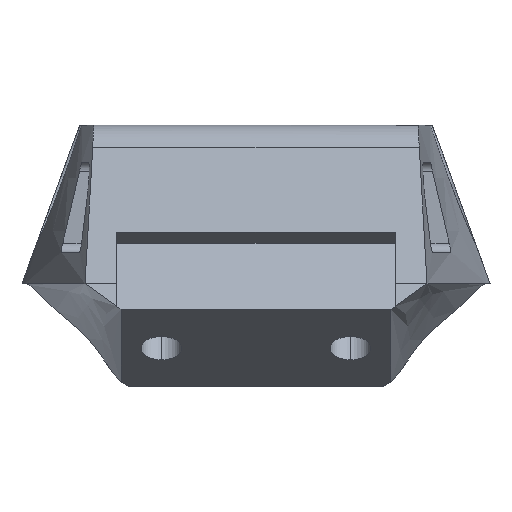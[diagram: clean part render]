
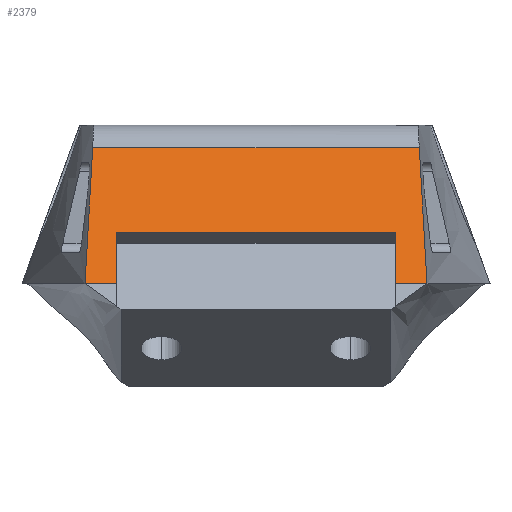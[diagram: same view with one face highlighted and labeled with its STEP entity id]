
A CAD part, front view. The second image highlights one B-rep face of the part: STEP entity #2379.
In plain terms, the highlighted planar face has unit normal (0, -0.926, 0.378).
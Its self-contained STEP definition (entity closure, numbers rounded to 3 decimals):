
#19 = EDGE_CURVE ( 'NONE', #4150, #2739, #3523, .T. ) ;
#51 = EDGE_CURVE ( 'NONE', #5163, #228, #3607, .T. ) ;
#144 = LINE ( 'NONE', #515, #4949 ) ;
#218 = CARTESIAN_POINT ( 'NONE',  ( -18.428, -86.577, 10.074 ) ) ;
#228 = VERTEX_POINT ( 'NONE', #1240 ) ;
#294 = DIRECTION ( 'NONE',  ( 1., 0., 0. ) ) ;
#417 = CARTESIAN_POINT ( 'NONE',  ( 18.714, -88.632, 5.037 ) ) ;
#424 = CARTESIAN_POINT ( 'NONE',  ( 18.141, -84.522, 15.111 ) ) ;
#467 = FACE_OUTER_BOUND ( 'NONE', #2312, .T. ) ;
#471 = AXIS2_PLACEMENT_3D ( 'NONE', #1304, #1250, #2918 ) ;
#515 = CARTESIAN_POINT ( 'NONE',  ( -19., -84.522, 15.111 ) ) ;
#682 = VECTOR ( 'NONE', #1965, 1000. ) ;
#831 = CARTESIAN_POINT ( 'NONE',  ( 19., -90.687, 0. ) ) ;
#879 = PLANE ( 'NONE',  #471 ) ;
#1004 = CARTESIAN_POINT ( 'NONE',  ( -19., -90.687, 0. ) ) ;
#1104 = CARTESIAN_POINT ( 'NONE',  ( -18.141, -84.522, 15.111 ) ) ;
#1212 = VERTEX_POINT ( 'NONE', #2208 ) ;
#1231 = B_SPLINE_CURVE_WITH_KNOTS ( 'NONE', 3,
 ( #5185, #2368, #218, #1104 ),
 .UNSPECIFIED., .F., .F.,
 ( 4, 4 ),
 ( 0., 0.859 ),
 .UNSPECIFIED. ) ;
#1240 = CARTESIAN_POINT ( 'NONE',  ( -15.5, -90.687, 0. ) ) ;
#1250 = DIRECTION ( 'NONE',  ( 0., -0.926, 0.378 ) ) ;
#1304 = CARTESIAN_POINT ( 'NONE',  ( -19., -90.687, 0. ) ) ;
#1321 = ORIENTED_EDGE ( 'NONE', *, *, #4167, .T. ) ;
#1536 = B_SPLINE_CURVE_WITH_KNOTS ( 'NONE', 3,
 ( #831, #417, #5111, #1858 ),
 .UNSPECIFIED., .F., .F.,
 ( 4, 4 ),
 ( 0., 0.859 ),
 .UNSPECIFIED. ) ;
#1673 = VERTEX_POINT ( 'NONE', #2888 ) ;
#1726 = CARTESIAN_POINT ( 'NONE',  ( 15.5, -90.687, 0. ) ) ;
#1758 = LINE ( 'NONE', #3486, #3570 ) ;
#1858 = CARTESIAN_POINT ( 'NONE',  ( 18.141, -84.522, 15.111 ) ) ;
#1861 = DIRECTION ( 'NONE',  ( 0., 0.378, 0.926 ) ) ;
#1965 = DIRECTION ( 'NONE',  ( -1., 0., 0. ) ) ;
#1968 = VECTOR ( 'NONE', #294, 1000. ) ;
#2020 = VECTOR ( 'NONE', #1861, 1000. ) ;
#2167 = CARTESIAN_POINT ( 'NONE',  ( 15.5, -88.371, 5.676 ) ) ;
#2208 = CARTESIAN_POINT ( 'NONE',  ( 19., -90.687, 0. ) ) ;
#2312 = EDGE_LOOP ( 'NONE', ( #3910, #3134, #3592, #3139, #3669, #5116, #1321, #3337 ) ) ;
#2368 = CARTESIAN_POINT ( 'NONE',  ( -18.714, -88.632, 5.037 ) ) ;
#2379 = ADVANCED_FACE ( 'NONE', ( #467 ), #879, .T. ) ;
#2444 = EDGE_CURVE ( 'NONE', #1212, #3474, #1536, .T. ) ;
#2739 = VERTEX_POINT ( 'NONE', #4637 ) ;
#2744 = CARTESIAN_POINT ( 'NONE',  ( -19., -88.371, 5.676 ) ) ;
#2809 = EDGE_CURVE ( 'NONE', #4255, #1212, #1758, .T. ) ;
#2888 = CARTESIAN_POINT ( 'NONE',  ( -18.141, -84.522, 15.111 ) ) ;
#2907 = EDGE_CURVE ( 'NONE', #228, #2739, #4033, .T. ) ;
#2918 = DIRECTION ( 'NONE',  ( 1., 0., 0. ) ) ;
#3070 = DIRECTION ( 'NONE',  ( -1., 0., 0. ) ) ;
#3134 = ORIENTED_EDGE ( 'NONE', *, *, #2907, .T. ) ;
#3139 = ORIENTED_EDGE ( 'NONE', *, *, #3208, .F. ) ;
#3208 = EDGE_CURVE ( 'NONE', #4255, #4150, #5109, .T. ) ;
#3337 = ORIENTED_EDGE ( 'NONE', *, *, #5194, .F. ) ;
#3377 = DIRECTION ( 'NONE',  ( 0., 0.378, 0.926 ) ) ;
#3474 = VERTEX_POINT ( 'NONE', #424 ) ;
#3486 = CARTESIAN_POINT ( 'NONE',  ( 19., -90.687, 0. ) ) ;
#3523 = LINE ( 'NONE', #2744, #682 ) ;
#3570 = VECTOR ( 'NONE', #5088, 1000. ) ;
#3592 = ORIENTED_EDGE ( 'NONE', *, *, #19, .F. ) ;
#3607 = LINE ( 'NONE', #3634, #1968 ) ;
#3634 = CARTESIAN_POINT ( 'NONE',  ( 19., -90.687, 0. ) ) ;
#3669 = ORIENTED_EDGE ( 'NONE', *, *, #2809, .T. ) ;
#3738 = VECTOR ( 'NONE', #3377, 1000. ) ;
#3910 = ORIENTED_EDGE ( 'NONE', *, *, #51, .T. ) ;
#4033 = LINE ( 'NONE', #4761, #2020 ) ;
#4150 = VERTEX_POINT ( 'NONE', #2167 ) ;
#4167 = EDGE_CURVE ( 'NONE', #3474, #1673, #144, .T. ) ;
#4255 = VERTEX_POINT ( 'NONE', #5212 ) ;
#4637 = CARTESIAN_POINT ( 'NONE',  ( -15.5, -88.371, 5.676 ) ) ;
#4761 = CARTESIAN_POINT ( 'NONE',  ( -15.5, -90.687, 0. ) ) ;
#4949 = VECTOR ( 'NONE', #3070, 1000. ) ;
#5088 = DIRECTION ( 'NONE',  ( 1., 0., 0. ) ) ;
#5109 = LINE ( 'NONE', #1726, #3738 ) ;
#5111 = CARTESIAN_POINT ( 'NONE',  ( 18.428, -86.577, 10.074 ) ) ;
#5116 = ORIENTED_EDGE ( 'NONE', *, *, #2444, .T. ) ;
#5163 = VERTEX_POINT ( 'NONE', #1004 ) ;
#5185 = CARTESIAN_POINT ( 'NONE',  ( -19., -90.687, 0. ) ) ;
#5194 = EDGE_CURVE ( 'NONE', #5163, #1673, #1231, .T. ) ;
#5212 = CARTESIAN_POINT ( 'NONE',  ( 15.5, -90.687, 0. ) ) ;
